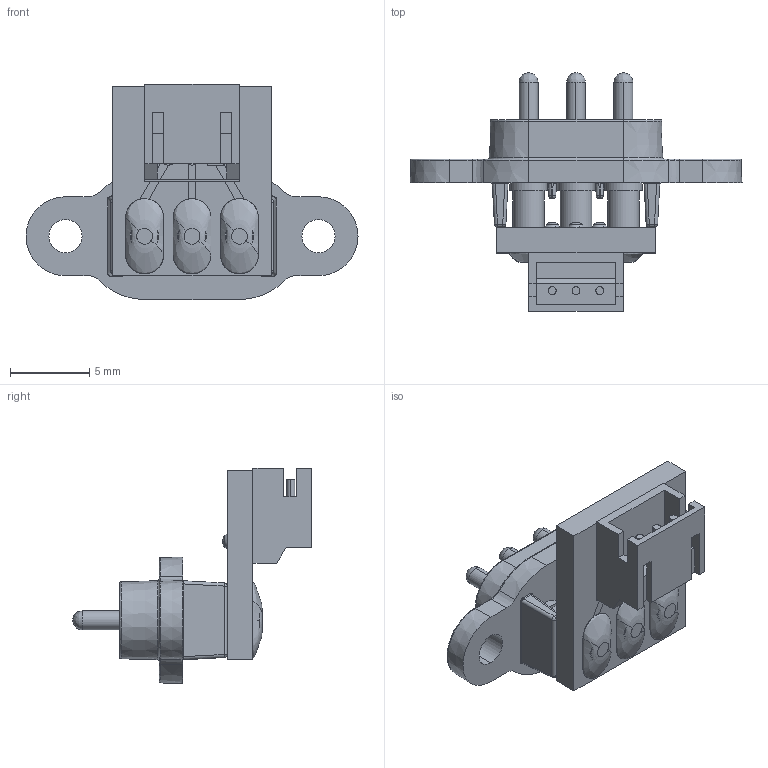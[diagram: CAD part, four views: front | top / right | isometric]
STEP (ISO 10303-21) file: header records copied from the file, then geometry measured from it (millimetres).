
FILE_DESCRIPTION (( 'STEP AP214' ), '1' );
FILE_NAME ('SWIFT DOCK MINI-3PC-SC.STEP', '2021-07-28T11:40:39', ( '' ), ( '' ), 'SwSTEP 2.0', 'SolidWorks 2021', '' );
FILE_SCHEMA (( 'AUTOMOTIVE_DESIGN' ));
Length unit declared in the file: millimetre
Products named in the file (8): body_3 hole_mini; S3B-ZR_1; PCB_3 way_mini_assy_with connector_1; PCB_3 way_mini_1; contact_sd_mini_3; solder_large_SD mini_5; solder spill_small_sd mini_3; SWIFT DOCK MINI-3PC-SC
Assembly tree (13 placements, depth 3):
  SWIFT DOCK MINI-3PC-SC
    body_3 hole_mini
    contact_sd_mini_3  x3
    PCB_3 way_mini_assy_with connector_1
      PCB_3 way_mini_1
      S3B-ZR_1
    solder_large_SD mini_5  x3
    solder spill_small_sd mini_3  x3
Bounding box: 21 x 15.1 x 13.6 mm (x, y, z)
Volume: 620.2 mm3; surface area: 1441.2 mm2
Topology: 12 solids, 15 shells, 470 faces, 1064 edges, 648 vertices
Faces by surface type: plane 183, cylinder 172, bspline 73, cone 42
Entity records: 17073 total; most frequent: CARTESIAN_POINT 4331, ORIENTED_EDGE 1764, DIRECTION 1629, EDGE_CURVE 882, AXIS2_PLACEMENT_3D 591, VERTEX_POINT 536, LINE 447, VECTOR 447
